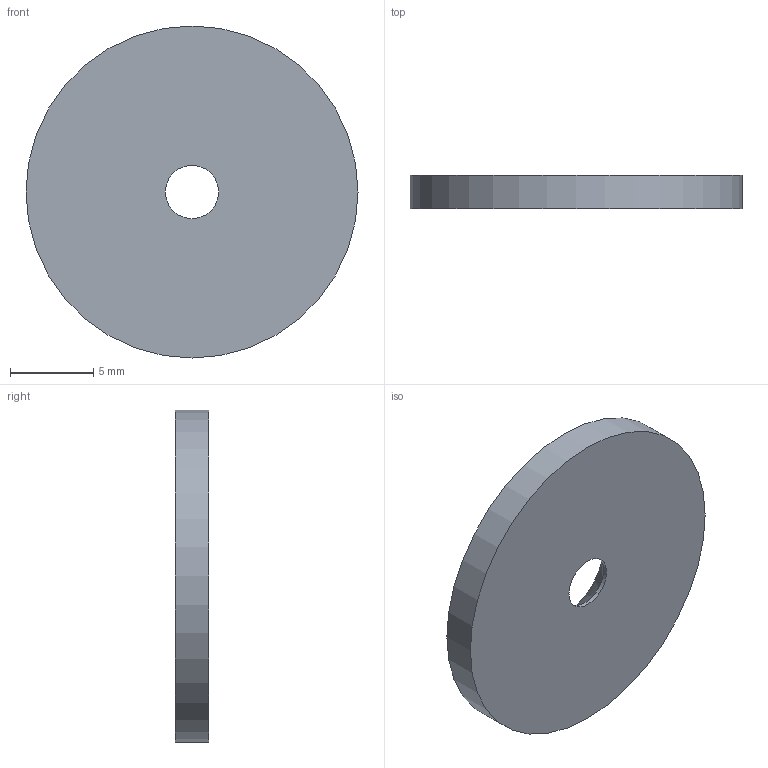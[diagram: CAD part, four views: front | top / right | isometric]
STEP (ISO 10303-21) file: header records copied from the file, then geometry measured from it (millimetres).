
FILE_DESCRIPTION(/* description */ ('STEP AP242 Edition 2','CAx-IF Rec.Pracs.---Representation and Presentation of Product Manufacturing Information (PMI)---4.0---2014-10-13','CAx-IF Rec.Pracs.---3D Tessellated Geometry---0.4---2014-09-14','2;1','CAx-IF Rec.Pracs.---User Defined Attributes---1.5---2016-08-15'),/* implementation_level */ '2;1');
FILE_NAME(/* name */ '6934b2fedd57ab0fa8c877dd',/* time_stamp */ '2025-12-06T22:49:35Z',/* author */ (''),/* organization */ (''),/* preprocessor_version */ 'ST-DEVELOPER v20',/* originating_system */ 'ONSHAPE BY PTC INC, 1.207',/* authorisation */ ' ');
FILE_SCHEMA (('AP242_MANAGED_MODEL_BASED_3D_ENGINEERING_MIM_LF { 1 0 10303 442 3 1 4 }'));
Length unit declared in the file: metre
Products named in the file (1): v1
Bounding box: 20 x 2 x 20 mm (x, y, z)
Volume: 591 mm3; surface area: 751.7 mm2
Topology: 1 solids, 1 shells, 5 faces, 9 edges, 6 vertices
Faces by surface type: cylinder 2, plane 2, cone 1
Full cylindrical faces by diameter (mm): 3.2 x1, 20 x1
Entity records: 130 total; most frequent: DIRECTION 22, CARTESIAN_POINT 16, AXIS2_PLACEMENT_3D 11, ORIENTED_EDGE 10, EDGE_LOOP 10, FACE_BOUND 10, EDGE_CURVE 5, VERTEX_POINT 5
